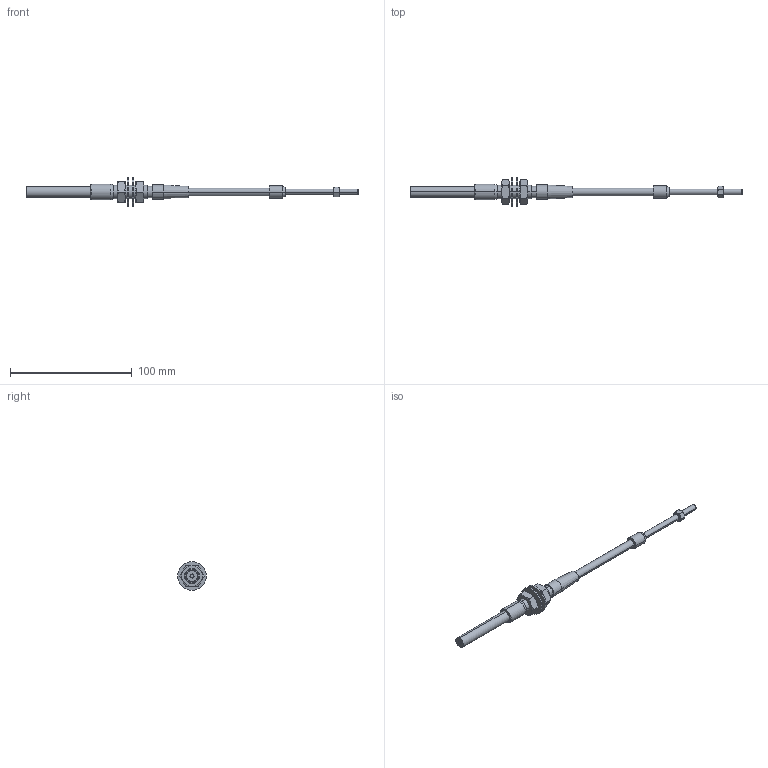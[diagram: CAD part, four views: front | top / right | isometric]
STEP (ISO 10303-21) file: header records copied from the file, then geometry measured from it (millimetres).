
FILE_DESCRIPTION((''),'2;1');
FILE_NAME('4582-193XXX-S3X_ASM','2025-06-17T11:03:49',('LACR'),(''),'CREO PARAMETRIC BY PTC INC, 2022364','CREO PARAMETRIC BY PTC INC, 2022364','');
FILE_SCHEMA(('CONFIG_CONTROL_DESIGN','SHAPE_APPEARANCE_LAYERS_GROUPS'));
Length unit declared in the file: millimetre
Products named in the file (12): 2580-108102-000000-T; 2580-411104-000000; 2583-211001-000000; 2583-011001-0000000; 2581-311102-A00003; 2581-105201-A00003; 2581-404001-000000; 5128-005301-000000; 2580-205401-000000-T05M3; 5105-011401-000000; 5102-011103-000000; 4582-193XXX-S3X_ASM
Assembly tree (13 placements, depth 2):
  4582-193XXX-S3X_ASM
    2580-108102-000000-T
    2580-411104-000000
    2583-211001-000000
    2583-011001-0000000
    2581-311102-A00003
    2581-105201-A00003
    2581-404001-000000
    5128-005301-000000
    2580-205401-000000-T05M3
    5105-011401-000000  x2
    5102-011103-000000  x2
Bounding box: 273 x 23.6 x 23.6 mm (x, y, z)
Volume: 17555.2 mm3; surface area: 23046.3 mm2
Topology: 13 solids, 19 shells, 190 faces, 402 edges, 247 vertices
Faces by surface type: cylinder 78, plane 54, cone 52, torus 6
Entity records: 6039 total; most frequent: DIRECTION 924, CARTESIAN_POINT 912, ORIENTED_EDGE 680, AXIS2_PLACEMENT_3D 397, EDGE_CURVE 350, PRESENTATION_STYLE_ASSIGNMENT 326, STYLED_ITEM 322, CURVE_STYLE 308
